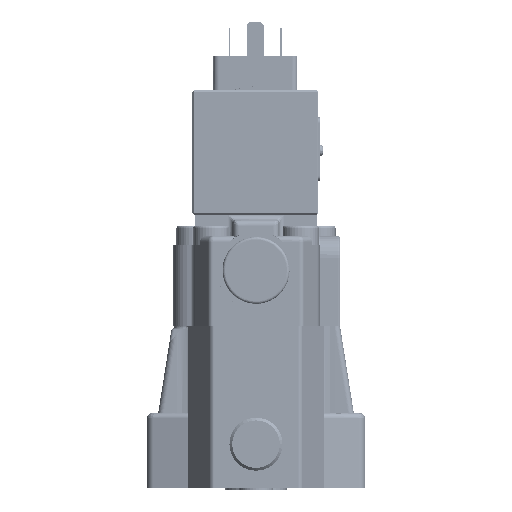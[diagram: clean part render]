
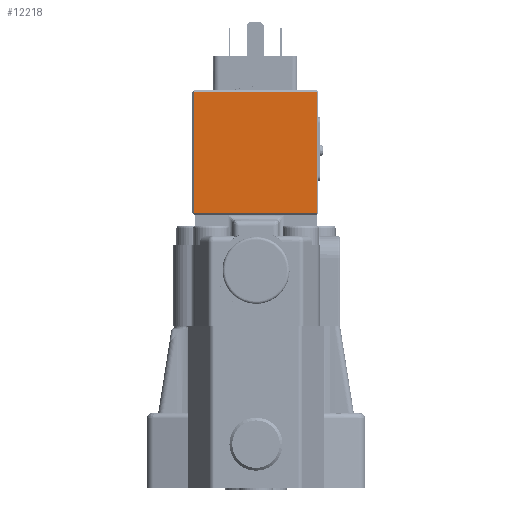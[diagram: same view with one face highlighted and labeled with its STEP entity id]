
A CAD part, left-side view. The second image highlights one B-rep face of the part: STEP entity #12218.
In plain terms, the highlighted planar face has unit normal (-1, 0, 0).
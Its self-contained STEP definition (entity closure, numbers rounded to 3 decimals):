
#952=FACE_OUTER_BOUND('',#4183,.T.);
#1873=PLANE('',#15171);
#2449=LINE('',#81020,#3226);
#2450=LINE('',#81023,#3227);
#2451=LINE('',#81025,#3228);
#2452=LINE('',#81027,#3229);
#3226=VECTOR('',#17588,1.);
#3227=VECTOR('',#17589,1.);
#3228=VECTOR('',#17590,1.);
#3229=VECTOR('',#17591,1.);
#4183=EDGE_LOOP('',(#6450,#6451,#6452,#6453));
#6450=ORIENTED_EDGE('',*,*,#9208,.T.);
#6451=ORIENTED_EDGE('',*,*,#9209,.T.);
#6452=ORIENTED_EDGE('',*,*,#9210,.T.);
#6453=ORIENTED_EDGE('',*,*,#9211,.T.);
#9208=EDGE_CURVE('',#13883,#13884,#2449,.T.);
#9209=EDGE_CURVE('',#13884,#13885,#2450,.T.);
#9210=EDGE_CURVE('',#13885,#13886,#2451,.T.);
#9211=EDGE_CURVE('',#13886,#13883,#2452,.T.);
#12218=ADVANCED_FACE('',(#952),#1873,.T.);
#13883=VERTEX_POINT('',#81021);
#13884=VERTEX_POINT('',#81022);
#13885=VERTEX_POINT('',#81024);
#13886=VERTEX_POINT('',#81026);
#15171=AXIS2_PLACEMENT_3D('',#81028,#17592,#17593);
#17588=DIRECTION('',(0.,1.,0.));
#17589=DIRECTION('',(0.,0.,-1.));
#17590=DIRECTION('',(0.,-1.,0.));
#17591=DIRECTION('',(0.,0.,1.));
#17592=DIRECTION('',(-1.,0.,0.));
#17593=DIRECTION('',(0.,1.,0.));
#81020=CARTESIAN_POINT('',(564.278,72.901,127.64));
#81021=CARTESIAN_POINT('',(564.278,28.401,127.635));
#81022=CARTESIAN_POINT('',(564.278,72.401,127.64));
#81023=CARTESIAN_POINT('',(564.278,72.401,128.14));
#81024=CARTESIAN_POINT('',(564.278,72.406,84.14));
#81025=CARTESIAN_POINT('',(564.278,27.906,84.135));
#81026=CARTESIAN_POINT('',(564.278,28.406,84.135));
#81027=CARTESIAN_POINT('',(564.278,28.401,128.135));
#81028=CARTESIAN_POINT('',(564.278,27.901,128.135));
